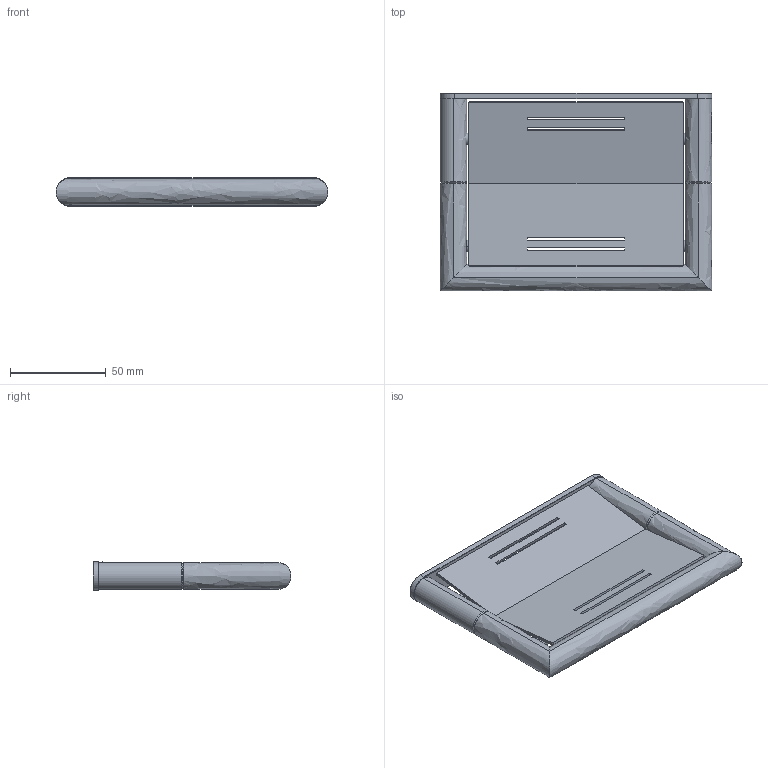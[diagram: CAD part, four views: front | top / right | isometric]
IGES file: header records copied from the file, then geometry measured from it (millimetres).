
Start section: SolidWorks IGES file using analytic representation for surfaces
Global section: file name: G:\Projects\New project\For Marketing\IGS\IGS\2015-12-11\476001002VW.IGS; native system: SolidWorks 2010; preprocessor: SolidWorks 2010; author: weijuan; date: 151207.152755; units: inch
Bounding box: 142 x 103.5 x 15 mm (x, y, z)
Surface area: 40309 mm2 (no closed solid volume)
Topology: 0 solids, 0 shells, 161 faces, 1633 edges, 1625 vertices
Faces by surface type: bspline 88, revolution 73
